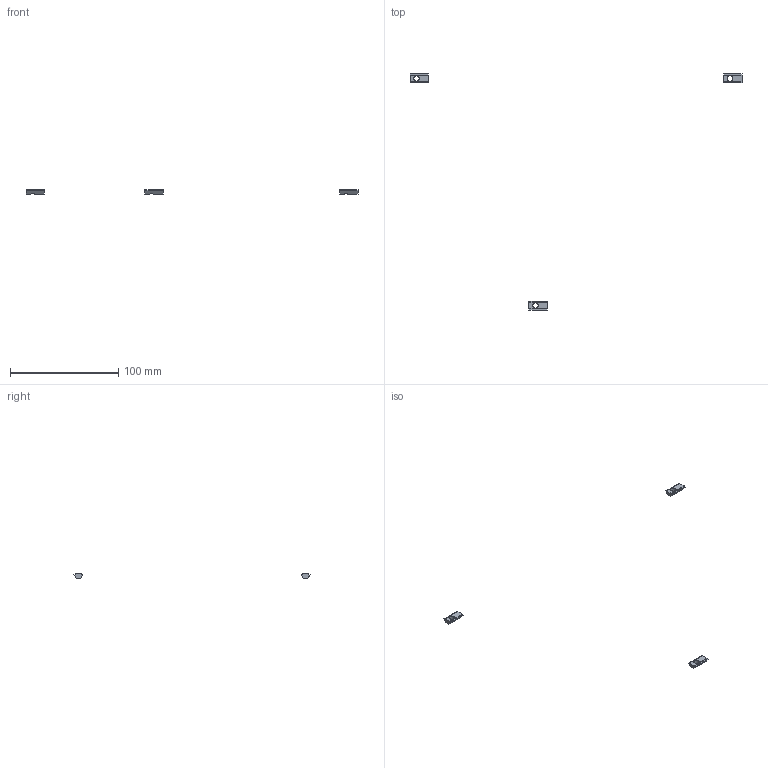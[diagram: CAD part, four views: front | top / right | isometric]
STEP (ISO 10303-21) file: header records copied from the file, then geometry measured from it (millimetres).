
FILE_DESCRIPTION(/* description */ (''),/* implementation_level */ '2;1');
FILE_NAME(/* name */ '9.electronics#9.2#HNTPZ5-5',/* time_stamp */ '2014-12-01T20:18:46+01:00',/* author */ (''),/* organization */ (''),/* preprocessor_version */ 'ST-DEVELOPER v14',/* originating_system */ '',/* authorisation */ '');
FILE_SCHEMA (('AUTOMOTIVE_DESIGN'));
Length unit declared in the file: millimetre
Products named in the file (2): Document; nut tslot, post, M5
Assembly tree (3 placements, depth 2):
  Document
    nut tslot, post, M5  x3
Bounding box: 307.01 x 218.3 x 3.8 mm (x, y, z)
Volume: 945 mm3; surface area: 1258.5 mm2
Topology: 3 solids, 3 shells, 39 faces, 108 edges, 72 vertices
Faces by surface type: plane 33, bspline 6
Entity records: 1017 total; most frequent: CARTESIAN_POINT 462, B_SPLINE_CURVE_WITH_KNOTS 100, ORIENTED_EDGE 72, PCURVE 72, DEFINITIONAL_REPRESENTATION 72, SURFACE_CURVE 36, EDGE_CURVE 36, VERTEX_POINT 24
